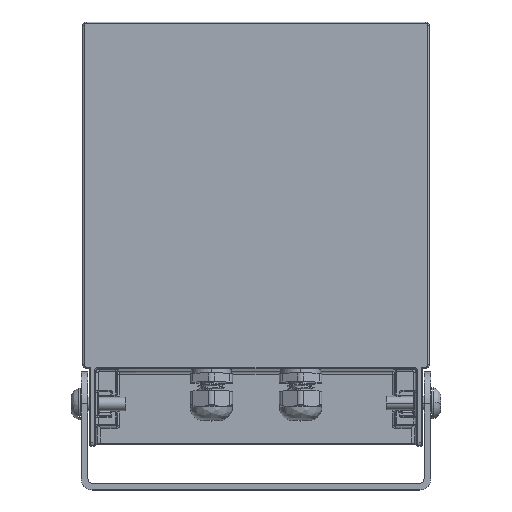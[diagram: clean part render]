
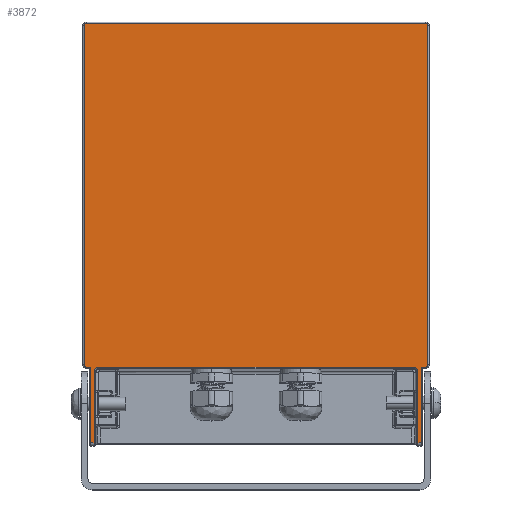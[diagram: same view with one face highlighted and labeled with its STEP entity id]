
A CAD part, top view. The second image highlights one B-rep face of the part: STEP entity #3872.
In plain terms, the highlighted planar face has unit normal (0, 0, 1).
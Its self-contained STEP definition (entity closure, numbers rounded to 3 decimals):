
#1=CARTESIAN_POINT('',(72.483,-79.02,0.));
#2=CARTESIAN_POINT('',(72.483,-78.955,0.));
#3=CARTESIAN_POINT('',(72.476,-78.824,0.));
#4=CARTESIAN_POINT('',(72.448,-78.63,0.));
#5=CARTESIAN_POINT('',(72.4,-78.439,0.));
#6=CARTESIAN_POINT('',(72.334,-78.254,0.));
#7=CARTESIAN_POINT('',(72.25,-78.076,0.));
#8=CARTESIAN_POINT('',(72.149,-77.907,0.));
#9=CARTESIAN_POINT('',(72.031,-77.749,0.));
#10=CARTESIAN_POINT('',(71.899,-77.604,0.));
#11=CARTESIAN_POINT('',(71.754,-77.472,
0.));
#12=CARTESIAN_POINT('',(71.596,-77.355,0.));
#13=CARTESIAN_POINT('',(71.428,-77.254,
0.));
#14=CARTESIAN_POINT('',(71.25,-77.17,0.));
#15=CARTESIAN_POINT('',(71.066,-77.104,
0.));
#16=CARTESIAN_POINT('',(70.875,-77.057,0.));
#17=CARTESIAN_POINT('',(70.681,-77.028,0.));
#18=CARTESIAN_POINT('',(70.55,-77.021,0.));
#19=CARTESIAN_POINT('',(70.485,-77.021,
0.));
#21=DIRECTION('',(-1.,0.,0.));
#22=VECTOR('',#21,140.969);
#23=CARTESIAN_POINT('',(70.485,-77.021,
0.));
#24=LINE('',#23,#22);
#25=CARTESIAN_POINT('',(-70.485,-77.021,
0.));
#26=CARTESIAN_POINT('',(-70.55,-77.021,0.));
#27=CARTESIAN_POINT('',(-70.681,-77.028,
0.));
#28=CARTESIAN_POINT('',(-70.875,-77.057,0.));
#29=CARTESIAN_POINT('',(-71.066,-77.104,
0.));
#30=CARTESIAN_POINT('',(-71.251,-77.17,
0.));
#31=CARTESIAN_POINT('',(-71.429,-77.255,
0.));
#32=CARTESIAN_POINT('',(-71.598,-77.356,
0.));
#33=CARTESIAN_POINT('',(-71.755,-77.473,
0.));
#34=CARTESIAN_POINT('',(-71.901,-77.605,
0.));
#35=CARTESIAN_POINT('',(-72.033,-77.751,
0.));
#36=CARTESIAN_POINT('',(-72.15,-77.909,
0.));
#37=CARTESIAN_POINT('',(-72.25,-78.077,
0.));
#38=CARTESIAN_POINT('',(-72.334,-78.255,
0.));
#39=CARTESIAN_POINT('',(-72.4,-78.439,
0.));
#40=CARTESIAN_POINT('',(-72.448,-78.63,0.));
#41=CARTESIAN_POINT('',(-72.476,-78.824,
0.));
#42=CARTESIAN_POINT('',(-72.483,-78.955,0.));
#43=CARTESIAN_POINT('',(-72.483,-79.02,
0.));
#45=CARTESIAN_POINT('',(-75.,-78.,0.));
#46=DIRECTION('',(0.,0.,1.));
#47=DIRECTION('',(1.,0.,0.));
#48=AXIS2_PLACEMENT_3D('',#45,#46,#47);
#50=DIRECTION('',(-1.,0.,0.));
#51=VECTOR('',#50,1.);
#52=CARTESIAN_POINT('',(-75.,-77.,0.));
#53=LINE('',#52,#51);
#54=CARTESIAN_POINT('',(-76.,-76.,0.));
#55=DIRECTION('',(0.,0.,-1.));
#56=DIRECTION('',(0.,-1.,0.));
#57=AXIS2_PLACEMENT_3D('',#54,#55,#56);
#59=CARTESIAN_POINT('',(-76.,76.,0.));
#60=DIRECTION('',(0.,0.,-1.));
#61=DIRECTION('',(-1.,0.,0.));
#62=AXIS2_PLACEMENT_3D('',#59,#60,#61);
#64=CARTESIAN_POINT('',(76.,76.,0.));
#65=DIRECTION('',(0.,0.,-1.));
#66=DIRECTION('',(0.,1.,0.));
#67=AXIS2_PLACEMENT_3D('',#64,#65,#66);
#69=CARTESIAN_POINT('',(76.,-76.,0.));
#70=DIRECTION('',(0.,0.,-1.));
#71=DIRECTION('',(1.,0.,0.));
#72=AXIS2_PLACEMENT_3D('',#69,#70,#71);
#74=DIRECTION('',(-1.,0.,0.));
#75=VECTOR('',#74,1.);
#76=CARTESIAN_POINT('',(76.,-77.,0.));
#77=LINE('',#76,#75);
#78=CARTESIAN_POINT('',(75.,-78.,0.));
#79=DIRECTION('',(0.,0.,1.));
#80=DIRECTION('',(0.,1.,0.));
#81=AXIS2_PLACEMENT_3D('',#78,#79,#80);
#93=DIRECTION('',(0.,-1.,0.));
#94=VECTOR('',#93,31.926);
#95=CARTESIAN_POINT('',(72.483,-79.02,0.));
#96=LINE('',#95,#94);
#148=DIRECTION('',(1.,0.,0.));
#149=VECTOR('',#148,1.517);
#150=CARTESIAN_POINT('',(72.483,-110.947,0.));
#151=LINE('',#150,#149);
#171=DIRECTION('',(0.,1.,0.));
#172=VECTOR('',#171,32.947);
#173=CARTESIAN_POINT('',(74.,-110.947,0.));
#174=LINE('',#173,#172);
#360=DIRECTION('',(0.,1.,0.));
#361=VECTOR('',#360,152.);
#362=CARTESIAN_POINT('',(77.,-76.,0.));
#363=LINE('',#362,#361);
#383=DIRECTION('',(-1.,0.,0.));
#384=VECTOR('',#383,152.);
#385=CARTESIAN_POINT('',(76.,77.,0.));
#386=LINE('',#385,#384);
#406=DIRECTION('',(0.,-1.,0.));
#407=VECTOR('',#406,152.);
#408=CARTESIAN_POINT('',(-77.,76.,0.));
#409=LINE('',#408,#407);
#600=DIRECTION('',(0.,-1.,0.));
#601=VECTOR('',#600,32.947);
#602=CARTESIAN_POINT('',(-74.,-78.,0.));
#603=LINE('',#602,#601);
#636=DIRECTION('',(1.,0.,0.));
#637=VECTOR('',#636,1.517);
#638=CARTESIAN_POINT('',(-74.,-110.947,0.));
#639=LINE('',#638,#637);
#668=DIRECTION('',(0.,1.,0.));
#669=VECTOR('',#668,31.926);
#670=CARTESIAN_POINT('',(-72.483,-110.947,
0.));
#671=LINE('',#670,#669);
#3298=VERTEX_POINT('',#1);
#3299=VERTEX_POINT('',#19);
#3300=CARTESIAN_POINT('',(-70.485,-77.021,
0.));
#3301=VERTEX_POINT('',#3300);
#3302=VERTEX_POINT('',#43);
#3303=CARTESIAN_POINT('',(-72.483,-110.947,
0.));
#3304=VERTEX_POINT('',#3303);
#3305=CARTESIAN_POINT('',(-74.,-110.947,0.));
#3306=VERTEX_POINT('',#3305);
#3307=CARTESIAN_POINT('',(-74.,-78.,0.));
#3308=VERTEX_POINT('',#3307);
#3309=CARTESIAN_POINT('',(-75.,-77.,0.));
#3310=VERTEX_POINT('',#3309);
#3311=CARTESIAN_POINT('',(-76.,-77.,0.));
#3312=VERTEX_POINT('',#3311);
#3313=CARTESIAN_POINT('',(-77.,-76.,0.));
#3314=VERTEX_POINT('',#3313);
#3315=CARTESIAN_POINT('',(-77.,76.,0.));
#3316=VERTEX_POINT('',#3315);
#3317=CARTESIAN_POINT('',(-76.,77.,0.));
#3318=VERTEX_POINT('',#3317);
#3319=CARTESIAN_POINT('',(76.,77.,0.));
#3320=VERTEX_POINT('',#3319);
#3321=CARTESIAN_POINT('',(77.,76.,0.));
#3322=VERTEX_POINT('',#3321);
#3323=CARTESIAN_POINT('',(77.,-76.,0.));
#3324=VERTEX_POINT('',#3323);
#3325=CARTESIAN_POINT('',(76.,-77.,0.));
#3326=VERTEX_POINT('',#3325);
#3327=CARTESIAN_POINT('',(75.,-77.,0.));
#3328=VERTEX_POINT('',#3327);
#3329=CARTESIAN_POINT('',(74.,-78.,0.));
#3330=VERTEX_POINT('',#3329);
#3331=CARTESIAN_POINT('',(74.,-110.947,0.));
#3332=VERTEX_POINT('',#3331);
#3333=CARTESIAN_POINT('',(72.483,-110.947,
0.));
#3334=VERTEX_POINT('',#3333);
#3825=CARTESIAN_POINT('',(0.,0.,0.));
#3826=DIRECTION('',(0.,0.,1.));
#3827=DIRECTION('',(1.,0.,0.));
#3828=AXIS2_PLACEMENT_3D('',#3825,#3826,#3827);
#3829=PLANE('',#3828);
#3831=ORIENTED_EDGE('',*,*,#3830,.T.);
#3833=ORIENTED_EDGE('',*,*,#3832,.T.);
#3835=ORIENTED_EDGE('',*,*,#3834,.T.);
#3837=ORIENTED_EDGE('',*,*,#3836,.F.);
#3839=ORIENTED_EDGE('',*,*,#3838,.F.);
#3841=ORIENTED_EDGE('',*,*,#3840,.F.);
#3843=ORIENTED_EDGE('',*,*,#3842,.T.);
#3845=ORIENTED_EDGE('',*,*,#3844,.T.);
#3847=ORIENTED_EDGE('',*,*,#3846,.T.);
#3849=ORIENTED_EDGE('',*,*,#3848,.F.);
#3851=ORIENTED_EDGE('',*,*,#3850,.T.);
#3853=ORIENTED_EDGE('',*,*,#3852,.F.);
#3855=ORIENTED_EDGE('',*,*,#3854,.T.);
#3857=ORIENTED_EDGE('',*,*,#3856,.F.);
#3859=ORIENTED_EDGE('',*,*,#3858,.T.);
#3861=ORIENTED_EDGE('',*,*,#3860,.T.);
#3863=ORIENTED_EDGE('',*,*,#3862,.T.);
#3865=ORIENTED_EDGE('',*,*,#3864,.F.);
#3867=ORIENTED_EDGE('',*,*,#3866,.F.);
#3869=ORIENTED_EDGE('',*,*,#3868,.F.);
#3870=EDGE_LOOP('',(#3831,#3833,#3835,#3837,#3839,#3841,#3843,#3845,#3847,#3849,
#3851,#3853,#3855,#3857,#3859,#3861,#3863,#3865,#3867,#3869));
#3871=FACE_OUTER_BOUND('',#3870,.F.);
#3872=ADVANCED_FACE('',(#3871),#3829,.T.);
#20=B_SPLINE_CURVE_WITH_KNOTS('',3,(#1,#2,#3,#4,#5,#6,#7,#8,#9,#10,#11,#12,#13,
#14,#15,#16,#17,#18,#19),.UNSPECIFIED.,.F.,.F.,(4,1,1,1,1,1,1,1,1,1,1,1,1,1,1,1,
4),(0.,0.063,0.125,0.188,0.25,0.313,0.375,0.438,0.5,
0.563,0.625,0.688,0.75,0.813,0.875,0.938,1.),.UNSPECIFIED.);
#44=B_SPLINE_CURVE_WITH_KNOTS('',3,(#25,#26,#27,#28,#29,#30,#31,#32,#33,#34,#35,
#36,#37,#38,#39,#40,#41,#42,#43),.UNSPECIFIED.,.F.,.F.,(4,1,1,1,1,1,1,1,1,1,1,1,
1,1,1,1,4),(0.,0.063,0.125,0.188,0.25,0.313,0.375,0.438,
0.5,0.563,0.625,0.688,0.75,0.813,0.875,0.938,1.),
.UNSPECIFIED.);
#49=CIRCLE('',#48,1.);
#58=CIRCLE('',#57,1.);
#63=CIRCLE('',#62,1.);
#68=CIRCLE('',#67,1.);
#73=CIRCLE('',#72,1.);
#82=CIRCLE('',#81,1.);
#3830=EDGE_CURVE('',#3298,#3299,#20,.T.);
#3832=EDGE_CURVE('',#3299,#3301,#24,.T.);
#3834=EDGE_CURVE('',#3301,#3302,#44,.T.);
#3836=EDGE_CURVE('',#3304,#3302,#671,.T.);
#3838=EDGE_CURVE('',#3306,#3304,#639,.T.);
#3840=EDGE_CURVE('',#3308,#3306,#603,.T.);
#3842=EDGE_CURVE('',#3308,#3310,#49,.T.);
#3844=EDGE_CURVE('',#3310,#3312,#53,.T.);
#3846=EDGE_CURVE('',#3312,#3314,#58,.T.);
#3848=EDGE_CURVE('',#3316,#3314,#409,.T.);
#3850=EDGE_CURVE('',#3316,#3318,#63,.T.);
#3852=EDGE_CURVE('',#3320,#3318,#386,.T.);
#3854=EDGE_CURVE('',#3320,#3322,#68,.T.);
#3856=EDGE_CURVE('',#3324,#3322,#363,.T.);
#3858=EDGE_CURVE('',#3324,#3326,#73,.T.);
#3860=EDGE_CURVE('',#3326,#3328,#77,.T.);
#3862=EDGE_CURVE('',#3328,#3330,#82,.T.);
#3864=EDGE_CURVE('',#3332,#3330,#174,.T.);
#3866=EDGE_CURVE('',#3334,#3332,#151,.T.);
#3868=EDGE_CURVE('',#3298,#3334,#96,.T.);
